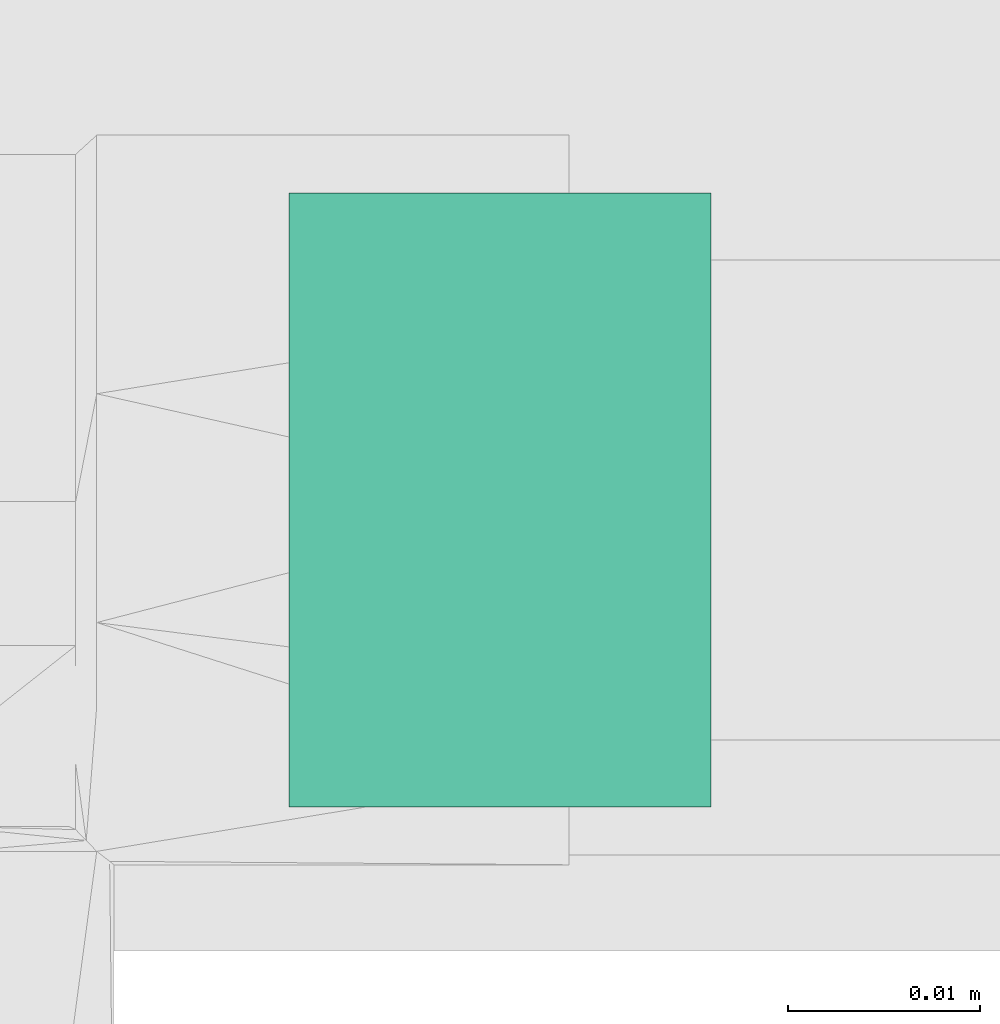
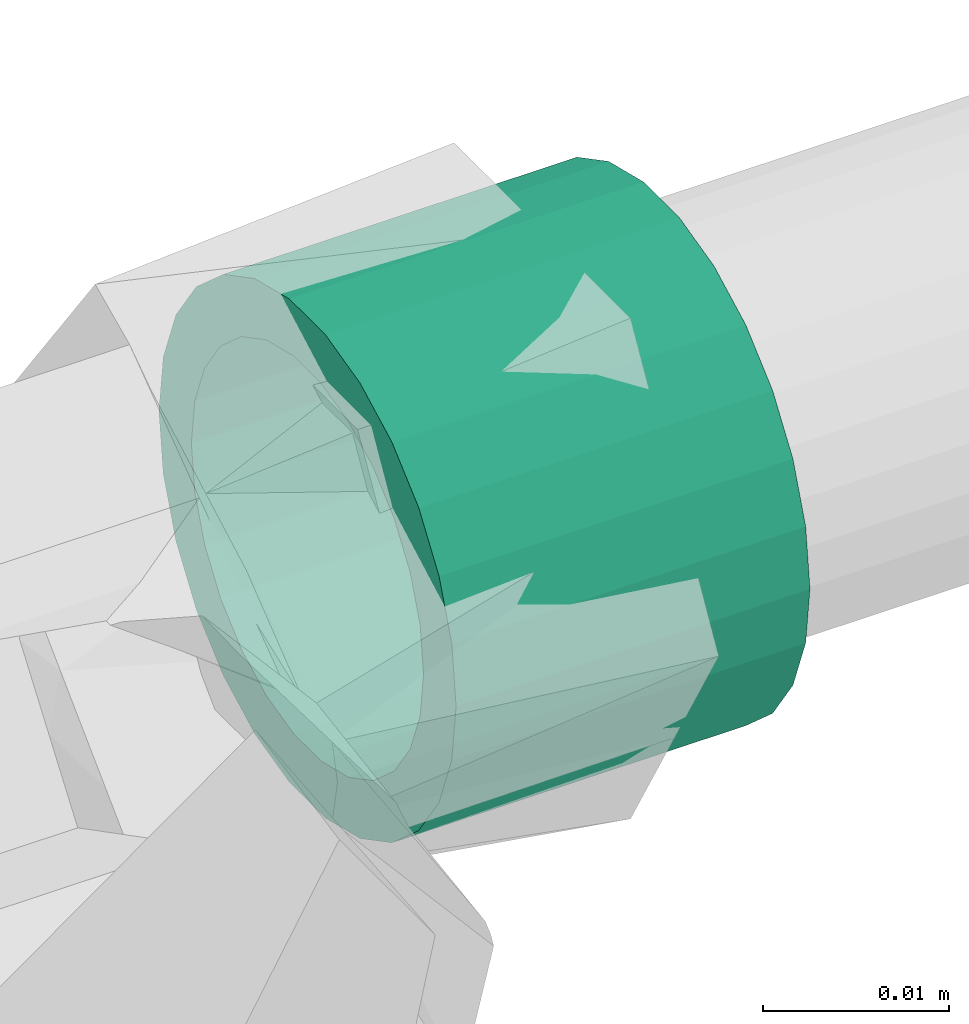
# One storey, part 151 of 166: 1 flow fitting.
"""IFC2X3 building model written with IfcOpenShell, lengths in metres."""

from ifc_helpers import new_model, entity, si_unit, converted_unit, direction, frame, frame_2d, origin, place, context, subcontext, project, spatial, hollow_circle, extrude, source, transform, mapped, material, type_object, type_shapes, element, save


model = new_model("IFC2X3")

# Units and contexts
model_context = context("Model", 3, precision=1e-05, world=origin(), true_north=direction((6.123233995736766e-17, 1.0)))
body_context = subcontext(model_context, "Body", "Model", "MODEL_VIEW")
ifc_project = project(units=[si_unit("LENGTHUNIT", "METRE"), converted_unit("PLANEANGLEUNIT", "DEGREE", entity("IfcPlaneAngleMeasure", 0.017453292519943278), si_unit("PLANEANGLEUNIT", "RADIAN"), dimensions=[0, 0, 0, 0, 0, 0, 0]), si_unit("AREAUNIT", "SQUARE_METRE")], contexts=[model_context])

# Site, building, storey
site_placement = place(None, origin())
site = spatial("IfcSite", under=ifc_project, at=site_placement, Name="Default", CompositionType="ELEMENT")
building_placement = place(site_placement, origin())
building = spatial("IfcBuilding", under=site, at=building_placement, Name="CASA DE ACOLHIDA PARA IDOSOS", CompositionType="ELEMENT")
storey_placement = place(building_placement, frame((0.0, 0.0, -1.7499999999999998)))
storey = spatial("IfcBuildingStorey", under=building, at=storey_placement, Name="IMPLANTAÇÃO DRENAGEM", CompositionType="ELEMENT", Elevation=-1.7499999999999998)

# Flow fitting
ifc_material = material(Name="PVC Marrom")
pipe_fitting_type = type_object("IfcPipeFittingType", Name="AF_Soldavel_Bucha de Reducao Curta:Standard", PredefinedType="NOTDEFINED", material=ifc_material)
shared_shape = source(origin(), body_context, "Body", "SweptSolid", [
    extrude(hollow_circle(Radius=0.016, WallThickness=0.0034999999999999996, at=frame_2d((0.0, -7.20339910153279e-17), x_axis=(1.0, 0.0))), frame((0.0, 0.0, 0.0), z_axis=(1.0, 0.0, 0.0), x_axis=(0.0, 1.0, 0.0)), (0.0, 0.0, 1.0), 0.02200000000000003),
])
type_shapes(pipe_fitting_type, [shared_shape])
flow_fitting_placement = place(storey_placement, frame((20.085253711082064, -16.745057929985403, -0.19999999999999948), z_axis=(0.0, 0.0, 1.0), x_axis=(-1.0, 0.0, 0.0)))
element("IfcFlowFitting", 1, at=flow_fitting_placement, inside=storey, type_object=pipe_fitting_type, material=ifc_material, Name="AF_Soldavel_Bucha de Reducao Curta:Standard", ObjectType="AF_Soldavel_Bucha de Reducao Curta:Standard", context=body_context, shape_type="MappedRepresentation", body=[
    mapped(shared_shape, transform((0.0, 0.0, 0.0), scale=1.0)),
])

save(model, "model.ifc")
